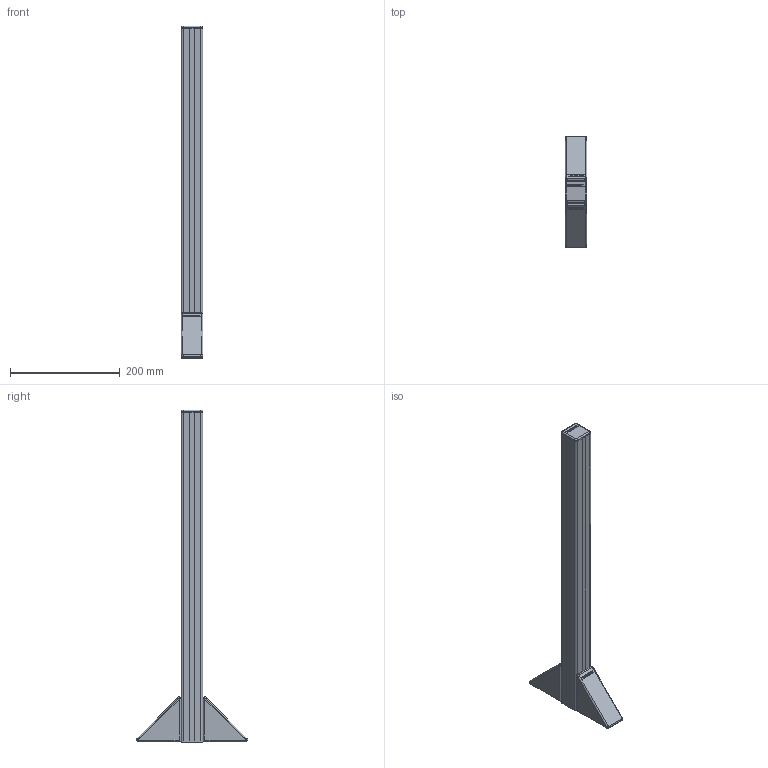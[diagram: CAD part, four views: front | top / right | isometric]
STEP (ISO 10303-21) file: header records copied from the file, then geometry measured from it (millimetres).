
FILE_DESCRIPTION(/* description */ (''),/* implementation_level */ '2;1');
FILE_NAME(/* name */ 'LA-6007-1060-A.stp',/* time_stamp */ '2015-01-28T11:20:53+00:00',/* author */ (''),/* organization */ (''),/* preprocessor_version */ 'ST-DEVELOPER v11',/* originating_system */ 'SIEMENS PLM Software NX 7.5',/* authorisation */ '');
FILE_SCHEMA (('AUTOMOTIVE_DESIGN { 1 0 10303 214 1 1 1 1 }'));
Length unit declared in the file: millimetre
Products named in the file (1): rt13982Avlbi
Bounding box: 40 x 203.46 x 604 mm (x, y, z)
Volume: 1253532.7 mm3; surface area: 121296.3 mm2
Topology: 1 solids, 1 shells, 168 faces, 638 edges, 520 vertices
Faces by surface type: plane 108, cylinder 30, bspline 18, cone 12
Entity records: 9264 total; most frequent: CARTESIAN_POINT 3231, ORIENTED_EDGE 1276, DIRECTION 837, EDGE_CURVE 638, VERTEX_POINT 520, AXIS2_PLACEMENT_3D 304, B_SPLINE_CURVE_WITH_KNOTS 256, LINE 229
